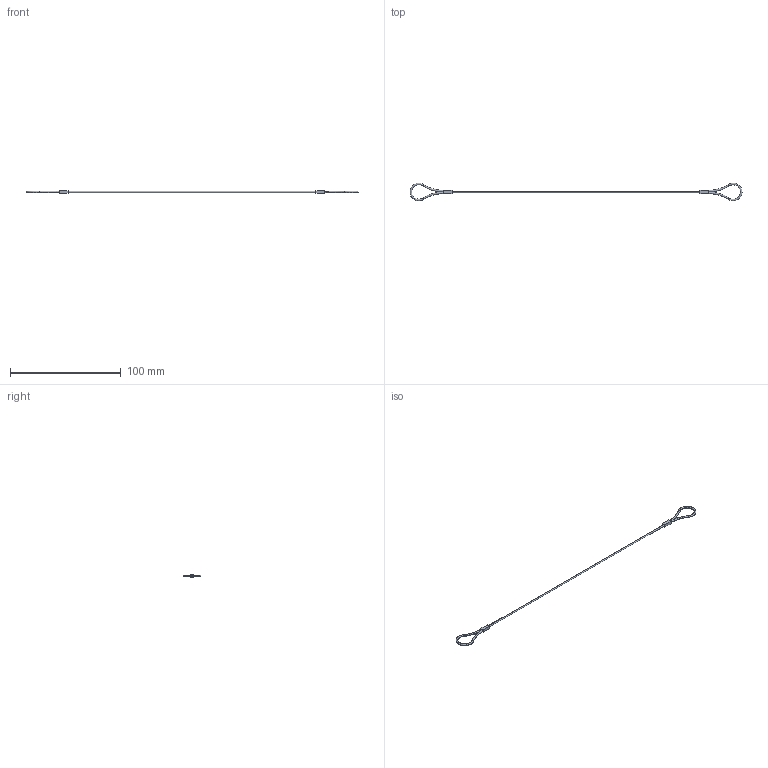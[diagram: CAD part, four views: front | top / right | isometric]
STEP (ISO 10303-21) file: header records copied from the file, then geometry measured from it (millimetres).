
FILE_DESCRIPTION (( 'STEP AP203' ), '1' );
FILE_NAME ('EB-935-17.STEP', '2013-08-12T06:37:35', ( 'SDS' ), ( 'SDS' ), 'SwSTEP 2.0', 'SolidWorks 2002296', '' );
FILE_SCHEMA (( 'CONFIG_CONTROL_DESIGN' ));
Length unit declared in the file: millimetre
Products named in the file (1): EB-935-17
Bounding box: 299.98 x 15.98 x 2.5 mm (x, y, z)
Volume: 760.9 mm3; surface area: 1904.6 mm2
Topology: 1 solids, 1 shells, 32 faces, 70 edges, 38 vertices
Faces by surface type: bspline 16, plane 14, cylinder 2
Entity records: 1407 total; most frequent: CARTESIAN_POINT 701, ORIENTED_EDGE 140, DIRECTION 120, EDGE_CURVE 70, AXIS2_PLACEMENT_3D 45, VERTEX_POINT 38, EDGE_LOOP 34, ADVANCED_FACE 32
